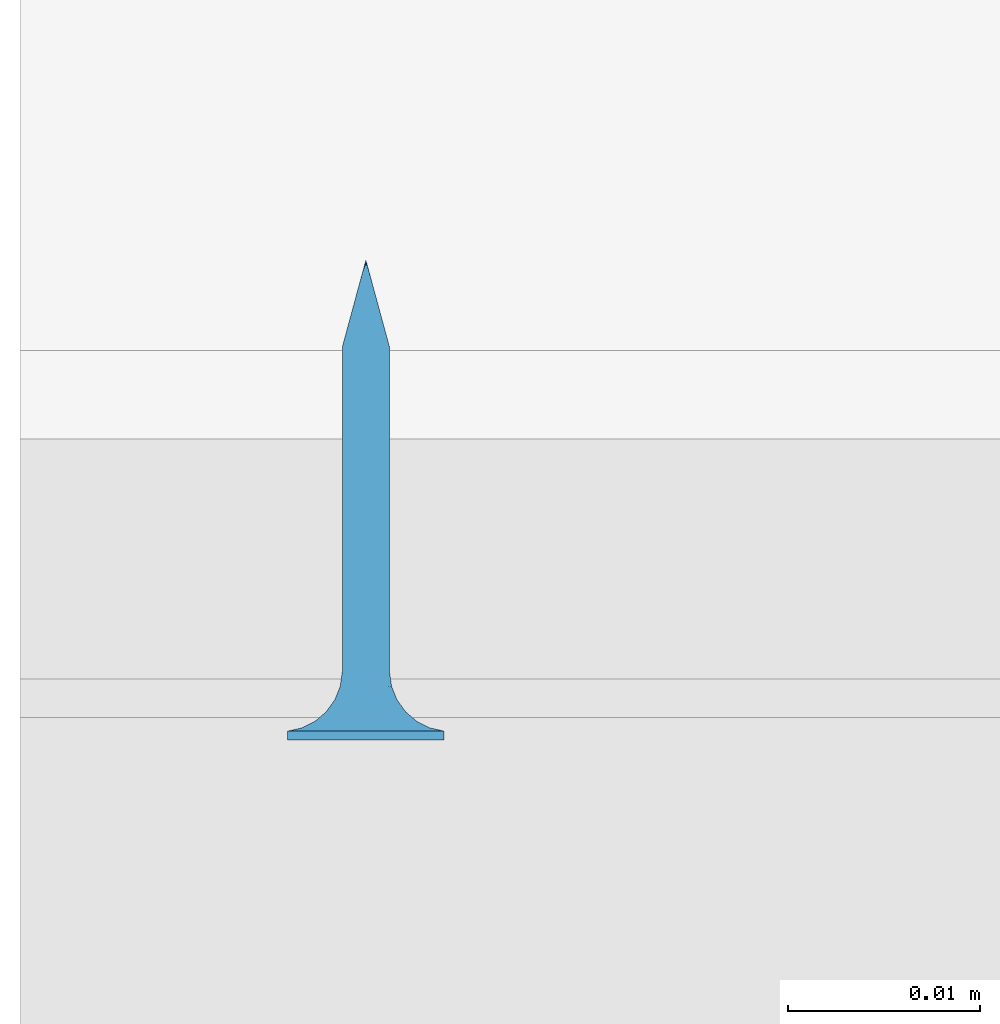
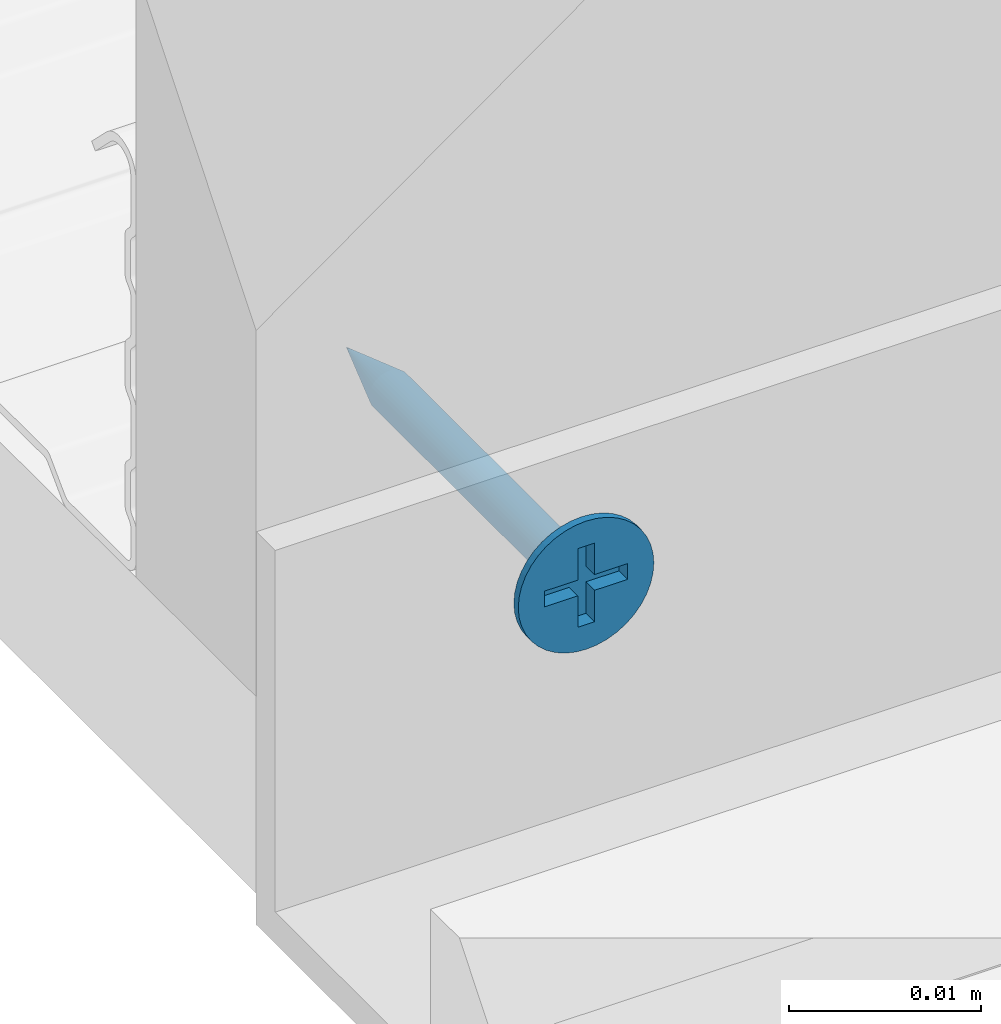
# One storey, part 23 of 79: 1 slab.
"""IFC2X3 building model written with IfcOpenShell, lengths in millimetres."""

from ifc_helpers import new_model, entity, si_unit, converted_unit, direction, frame, origin, origin_with_axes, place, context, project, spatial, faceted_brep, element, save


model = new_model("IFC2X3")

# Units and contexts
model_context = context("Model", 3, precision=1e-05, world=origin(), true_north=direction((0.0, 1.0, 0.0)))
ifc_project = project(units=[si_unit("LENGTHUNIT", "METRE", prefix="MILLI"), si_unit("AREAUNIT", "SQUARE_METRE"), si_unit("VOLUMEUNIT", "CUBIC_METRE"), converted_unit("PLANEANGLEUNIT", "DEGREE", entity("IfcPlaneAngleMeasure", 0.01745), si_unit("PLANEANGLEUNIT", "RADIAN"), dimensions=[0, 0, 0, 0, 0, 0, 0]), si_unit("SOLIDANGLEUNIT", "STERADIAN"), si_unit("MASSUNIT", "GRAM"), si_unit("TIMEUNIT", "SECOND"), si_unit("THERMODYNAMICTEMPERATUREUNIT", "DEGREE_CELSIUS"), si_unit("LUMINOUSINTENSITYUNIT", "LUMEN")], contexts=[model_context])

# Site, building, storey
site_placement = place(None, origin_with_axes())
site = spatial("IfcSite", under=ifc_project, at=site_placement, Name="Default Site", CompositionType="ELEMENT")
building_placement = place(site_placement, origin_with_axes())
building = spatial("IfcBuilding", under=site, at=building_placement, Name="Default Building", CompositionType="ELEMENT")
storey_placement = place(building_placement, origin_with_axes())
storey = spatial("IfcBuildingStorey", under=building, at=storey_placement, Name="Default Building Storey", CompositionType="ELEMENT", Elevation=0.0)

# Slab
slab_placement = place(storey_placement, frame((2280.499834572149, 5017.24186699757, 440.6779499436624), z_axis=(0.0, 0.0, 1.0), x_axis=(1.0, 0.0, 0.0)))
element("IfcSlab", 1, at=slab_placement, inside=storey, Name="Łącznik mechaniczny", context=model_context, shape_type="Brep", body=[
    faceted_brep([(-136.5890362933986, -3387.475459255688, 554.9298199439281), (-136.4636235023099, -3387.475459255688, 555.0766594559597), (-136.4636235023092, -3370.55807436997, 555.0766594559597), (-136.5890362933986, -3370.55807436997, 554.9298199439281), (-136.9005263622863, -3387.475459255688, 554.7035091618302), (-136.9005263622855, -3370.55807436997, 554.7035091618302), (-137.0789337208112, -3370.55807436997, 554.6296104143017), (-137.078933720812, -3387.475459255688, 554.6296104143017), (-137.2667048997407, -3387.475459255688, 554.5845305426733), (-137.2667048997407, -3370.55807436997, 554.5845305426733), (-137.4592163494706, -3370.55807436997, 554.5693795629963), (-137.4592163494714, -3387.475459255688, 554.5693795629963), (-136.4636235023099, -3387.475459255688, 556.5233405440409), (-136.5890362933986, -3387.475459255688, 556.6701800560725), (-136.5890362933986, -3370.55807436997, 556.6701800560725), (-136.4636235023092, -3370.55807436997, 556.5233405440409), (-138.4548091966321, -3370.55807436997, 556.5233405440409), (-138.3293964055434, -3370.55807436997, 556.6701800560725), (-138.3293964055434, -3387.475459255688, 556.6701800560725), (-138.4548091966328, -3387.475459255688, 556.5233405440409), (-136.7358758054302, -3370.55807436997, 554.8044071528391), (-136.7358758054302, -3387.475459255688, 554.8044071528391), (-138.1825568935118, -3387.475459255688, 556.7955928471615), (-138.1825568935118, -3370.55807436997, 556.7955928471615), (-138.0179063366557, -3370.55807436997, 556.8964908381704), (-138.0179063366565, -3387.475459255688, 556.8964908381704), (-136.3627255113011, -3387.475459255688, 556.3586899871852), (-136.3627255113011, -3370.55807436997, 556.3586899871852), (-136.7358758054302, -3387.475459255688, 556.7955928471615), (-136.7358758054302, -3370.55807436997, 556.7955928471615), (-137.6517277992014, -3387.475459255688, 554.5845305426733), (-137.6517277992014, -3370.55807436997, 554.5845305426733), (-137.83949897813, -3370.55807436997, 554.6296104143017), (-137.8394989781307, -3387.475459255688, 554.6296104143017), (-136.3627255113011, -3387.475459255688, 555.241310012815), (-136.3627255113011, -3370.55807436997, 555.241310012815), (-138.0179063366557, -3370.55807436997, 554.7035091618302), (-138.0179063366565, -3387.475459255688, 554.7035091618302), (-138.6746858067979, -3370.55807436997, 555.6074885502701), (-138.6898367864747, -3370.55807436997, 555.8000000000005), (-138.6898367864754, -3387.475459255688, 555.8000000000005), (-138.6746858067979, -3387.475459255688, 555.6074885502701), (-136.2285959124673, -3387.475459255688, 555.8000000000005), (-136.2437468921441, -3387.475459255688, 555.9925114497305), (-136.2437468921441, -3370.55807436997, 555.9925114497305), (-136.2285959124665, -3370.55807436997, 555.8000000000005), (-138.3293964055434, -3370.55807436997, 554.9298199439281), (-138.4548091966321, -3370.55807436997, 555.0766594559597), (-138.4548091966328, -3387.475459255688, 555.0766594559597), (-138.3293964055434, -3387.475459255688, 554.9298199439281), (-137.83949897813, -3370.55807436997, 556.9703895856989), (-137.8394989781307, -3387.475459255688, 556.9703895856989), (-138.1825568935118, -3370.55807436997, 554.8044071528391), (-138.1825568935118, -3387.475459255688, 554.8044071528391), (-138.5557071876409, -3370.55807436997, 555.241310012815), (-138.6296059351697, -3370.55807436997, 555.4197173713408), (-138.6296059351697, -3387.475459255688, 555.4197173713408), (-138.5557071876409, -3387.475459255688, 555.241310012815), (-136.2888267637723, -3387.475459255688, 555.4197173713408), (-136.2437468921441, -3387.475459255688, 555.6074885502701), (-136.2437468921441, -3370.55807436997, 555.6074885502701), (-136.2888267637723, -3370.55807436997, 555.4197173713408), (-136.2888267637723, -3387.475459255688, 556.1802826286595), (-136.2888267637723, -3370.55807436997, 556.1802826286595), (-137.4592163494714, -3387.475459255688, 557.0306204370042), (-137.4592163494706, -3370.55807436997, 557.0306204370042), (-137.2667048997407, -3370.55807436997, 557.0154694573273), (-137.2667048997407, -3387.475459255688, 557.0154694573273), (-137.0789337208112, -3370.55807436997, 556.9703895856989), (-137.078933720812, -3387.475459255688, 556.9703895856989), (-137.6517277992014, -3387.475459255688, 557.0154694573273), (-137.6517277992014, -3370.55807436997, 557.0154694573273), (-136.9005263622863, -3387.475459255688, 556.8964908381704), (-136.9005263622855, -3370.55807436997, 556.8964908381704), (-138.6296059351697, -3370.55807436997, 556.1802826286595), (-138.5557071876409, -3370.55807436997, 556.3586899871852), (-138.5557071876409, -3387.475459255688, 556.3586899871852), (-138.6296059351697, -3387.475459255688, 556.1802826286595), (-138.6746858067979, -3370.55807436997, 555.9925114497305), (-138.6746858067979, -3387.475459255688, 555.9925114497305), (-141.5377463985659, -3390.556721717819, 555.8000000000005), (-141.5377463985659, -3391.020944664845, 555.8000000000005), (-141.4875329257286, -3391.020944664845, 555.1619773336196), (-141.4875329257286, -3390.556721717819, 555.1619773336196), (-141.338128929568, -3391.020944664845, 554.539664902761), (-141.338128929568, -3390.556721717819, 554.539664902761), (-141.0932132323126, -3391.020944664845, 553.948386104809), (-141.0932132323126, -3390.556721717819, 553.948386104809), (-140.7588164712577, -3391.020944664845, 553.4027001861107), (-140.7588164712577, -3390.556721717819, 553.4027001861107), (-140.3431726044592, -3391.020944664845, 552.9160437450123), (-140.4541727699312, -3390.556721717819, 553.0314907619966), (-140.1080097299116, -3390.556721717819, 552.6986614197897), (-139.8565161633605, -3391.020944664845, 552.5003998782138), (-139.7251262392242, -3390.556721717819, 552.4088262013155), (-139.3108302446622, -3391.020944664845, 552.1660031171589), (-139.3108302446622, -3390.556721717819, 552.1660031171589), (-138.8708651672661, -3390.556721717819, 551.9735584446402), (-138.7195514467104, -3391.020944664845, 551.9210874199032), (-138.4113302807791, -3390.556721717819, 551.8341600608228), (-137.9385961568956, -3390.556721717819, 551.7497404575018), (-138.0972390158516, -3391.020944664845, 551.7716834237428), (-137.4592163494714, -3391.020944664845, 551.7214699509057), (-137.4592163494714, -3390.556721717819, 551.7214699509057), (-136.8211936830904, -3391.020944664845, 551.7716834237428), (-136.8211936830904, -3390.556721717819, 551.7716834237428), (-136.1988812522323, -3391.020944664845, 551.9210874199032), (-136.1988812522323, -3390.556721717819, 551.9210874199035), (-135.6076024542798, -3391.020944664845, 552.1660031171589), (-135.6076024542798, -3390.556721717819, 552.1660031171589), (-135.0619165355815, -3391.020944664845, 552.5003998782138), (-135.0619165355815, -3390.556721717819, 552.5003998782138), (-134.5752600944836, -3391.020944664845, 552.9160437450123), (-134.5752600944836, -3390.556721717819, 552.9160437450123), (-134.1596162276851, -3391.020944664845, 553.4027001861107), (-134.1596162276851, -3390.556721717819, 553.4027001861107), (-133.8252194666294, -3391.020944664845, 553.948386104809), (-133.8252194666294, -3390.556721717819, 553.948386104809), (-133.580303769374, -3391.020944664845, 554.539664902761), (-133.580303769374, -3390.556721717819, 554.539664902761), (-133.4308997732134, -3391.020944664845, 556.438022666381), (-133.4308997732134, -3390.556721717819, 556.438022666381), (-133.3806863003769, -3390.556721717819, 555.8000000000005), (-133.3806863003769, -3391.020944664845, 555.8000000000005), (-133.4308997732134, -3390.556721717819, 555.1619773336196), (-133.4308997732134, -3391.020944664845, 555.1619773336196), (-133.580303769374, -3391.020944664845, 557.0603350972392), (-133.580303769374, -3390.556721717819, 557.0603350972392), (-133.8252194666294, -3391.020944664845, 557.6516138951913), (-133.8252194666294, -3390.556721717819, 557.6516138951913), (-134.1596162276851, -3391.020944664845, 558.1972998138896), (-134.1596162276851, -3390.556721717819, 558.1972998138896), (-134.5752600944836, -3391.020944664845, 558.683956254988), (-134.5752600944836, -3390.556721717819, 558.683956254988), (-135.0619165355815, -3391.020944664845, 559.0996001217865), (-135.0619165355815, -3390.556721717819, 559.0996001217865), (-135.6076024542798, -3391.020944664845, 559.4339968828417), (-135.6076024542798, -3390.556721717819, 559.4339968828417), (-136.1988812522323, -3391.020944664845, 559.6789125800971), (-136.1988812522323, -3390.556721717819, 559.6789125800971), (-136.8211936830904, -3391.020944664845, 559.8283165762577), (-136.8211936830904, -3390.556721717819, 559.8283165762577), (-137.4592163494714, -3391.020944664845, 559.8785300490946), (-137.4592163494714, -3390.556721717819, 559.8785300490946), (-138.0972390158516, -3391.020944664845, 559.8283165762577), (-138.0972390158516, -3390.556721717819, 559.8283165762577), (-138.7195514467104, -3391.020944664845, 559.6789125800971), (-138.7195514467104, -3390.556721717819, 559.6789125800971), (-139.3108302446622, -3391.020944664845, 559.4339968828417), (-139.3108302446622, -3390.556721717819, 559.4339968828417), (-139.8565161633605, -3391.020944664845, 559.0996001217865), (-139.8565161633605, -3390.556721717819, 559.0996001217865), (-140.3431726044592, -3391.020944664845, 558.683956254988), (-140.3431726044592, -3390.556721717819, 558.683956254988), (-140.7588164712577, -3391.020944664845, 558.1972998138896), (-140.7588164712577, -3390.556721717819, 558.1972998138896), (-141.0932132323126, -3391.020944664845, 557.6516138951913), (-141.0932132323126, -3390.556721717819, 557.6516138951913), (-141.338128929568, -3391.020944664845, 557.0603350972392), (-141.338128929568, -3390.556721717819, 557.0603350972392), (-141.4875329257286, -3391.020944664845, 556.438022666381), (-141.4875329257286, -3390.556721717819, 556.438022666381), (-137.8060615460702, -3388.229732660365, 554.5055560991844), (-137.4592163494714, -3388.229732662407, 554.4598930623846), (-138.1292698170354, -3388.229732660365, 554.6394333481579), (-138.4068150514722, -3388.229732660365, 554.8524012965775), (-138.6197830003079, -3388.229732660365, 555.1299465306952), (-138.7536602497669, -3388.229732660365, 555.4531548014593), (-138.7993232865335, -3388.229732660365, 555.7999999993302), (-138.7536602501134, -3388.229732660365, 556.1468451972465), (-138.6197830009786, -3388.229732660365, 556.4700534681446), (-138.4068150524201, -3388.229732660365, 556.7475987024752), (-138.1292698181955, -3388.229732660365, 556.9605666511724), (-137.8060615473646, -3388.229732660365, 557.0944439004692), (-137.4592163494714, -3388.229732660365, 557.1401069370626), (-137.1123711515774, -3388.229732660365, 557.0944439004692), (-136.7891628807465, -3388.229732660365, 556.9605666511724), (-136.5116176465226, -3388.229732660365, 556.7475987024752), (-136.2986496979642, -3388.229732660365, 556.4700534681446), (-136.1647724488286, -3388.229732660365, 556.1468451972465), (-136.1191094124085, -3388.229732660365, 555.7999999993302), (-136.1647724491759, -3388.229732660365, 555.4531548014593), (-136.2986496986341, -3388.229732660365, 555.1299465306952), (-136.5116176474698, -3388.229732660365, 554.8524012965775), (-136.7891628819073, -3388.229732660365, 554.6394333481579), (-137.1123711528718, -3388.229732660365, 554.5055560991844), (-137.4592163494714, -3388.936142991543, 554.1737111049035), (-137.8801308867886, -3388.936142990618, 554.2291255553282), (-138.2723607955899, -3388.936142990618, 554.39159250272), (-138.6091762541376, -3388.936142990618, 554.6500400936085), (-138.8676238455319, -3388.936142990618, 554.9868555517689), (-139.0300907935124, -3388.936142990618, 555.3790854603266), (-139.0855052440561, -3388.936142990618, 555.7999999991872), (-139.0300907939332, -3388.936142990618, 556.2209145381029), (-138.8676238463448, -3388.936142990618, 556.6131444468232), (-138.6091762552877, -3388.936142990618, 556.949959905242), (-138.2723607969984, -3388.936142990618, 557.2084074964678), (-137.8801308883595, -3388.936142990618, 557.3708744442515), (-137.4592163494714, -3388.936142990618, 557.4262888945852), (-137.0383018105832, -3388.936142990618, 557.3708744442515), (-136.6460719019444, -3388.936142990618, 557.2084074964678), (-136.3092564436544, -3388.936142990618, 556.949959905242), (-136.0508088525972, -3388.936142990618, 556.6131444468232), (-135.8883419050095, -3388.936142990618, 556.2209145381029), (-135.8329274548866, -3388.936142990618, 555.7999999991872), (-135.8883419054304, -3388.936142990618, 555.3790854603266), (-136.0508088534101, -3388.936142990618, 554.9868555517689), (-136.3092564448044, -3388.936142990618, 554.6500400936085), (-136.6460719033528, -3388.936142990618, 554.39159250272), (-137.0383018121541, -3388.936142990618, 554.2291255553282), (-137.4592163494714, -3389.553938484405, 553.727343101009), (-137.9956594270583, -3389.553938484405, 553.7979671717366), (-138.4955447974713, -3389.553938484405, 554.0050264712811), (-138.9248060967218, -3389.553938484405, 554.3344102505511), (-139.2541898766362, -3389.553938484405, 554.7636715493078), (-139.46124917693, -3389.553938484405, 555.2635569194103), (-139.5318732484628, -3389.553938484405, 555.7999999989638), (-139.4612491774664, -3389.553938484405, 556.3364430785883), (-139.2541898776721, -3389.553938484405, 556.8363284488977), (-138.9248060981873, -3389.553938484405, 557.2655897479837), (-138.495544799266, -3389.553938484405, 557.5949735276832), (-137.9956594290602, -3389.553938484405, 557.8020328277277), (-137.4592163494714, -3389.553938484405, 557.8726568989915), (-136.9227732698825, -3389.553938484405, 557.8020328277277), (-136.422887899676, -3389.553938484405, 557.5949735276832), (-135.9936266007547, -3389.553938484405, 557.2655897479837), (-135.6642428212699, -3389.553938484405, 556.8363284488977), (-135.4571835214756, -3389.553938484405, 556.3364430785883), (-135.3865594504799, -3389.553938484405, 555.7999999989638), (-135.457183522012, -3389.553938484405, 555.2635569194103), (-135.6642428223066, -3389.553938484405, 554.7636715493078), (-135.9936266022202, -3389.553938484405, 554.3344102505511), (-136.4228879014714, -3389.553938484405, 554.0050264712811), (-136.9227732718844, -3389.553938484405, 553.7979671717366), (-137.4592163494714, -3390.04747944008, 553.1465393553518), (-138.1459824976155, -3390.047479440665, 553.2369538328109), (-138.7859466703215, -3390.047479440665, 553.5020356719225), (-139.3354963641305, -3390.047479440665, 553.9237199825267), (-139.757180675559, -3390.047479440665, 554.4732696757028), (-140.0222625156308, -3390.047479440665, 555.1132338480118), (-140.1126769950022, -3390.047479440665, 555.7999999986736), (-140.0222625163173, -3390.047479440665, 556.4867661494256), (-139.7571806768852, -3390.047479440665, 557.1267303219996), (-139.3354963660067, -3390.047479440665, 557.6762800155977), (-138.7859466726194, -3390.047479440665, 558.0979643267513), (-138.1459825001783, -3390.047479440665, 558.3630461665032), (-137.4592163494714, -3390.047479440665, 558.4534606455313), (-136.7724501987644, -3390.047479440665, 558.3630461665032), (-136.1324860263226, -3390.047479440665, 558.0979643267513), (-135.5829363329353, -3390.047479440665, 557.6762800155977), (-135.1612520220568, -3390.047479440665, 557.1267303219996), (-134.8961701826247, -3390.047479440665, 556.4867661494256), (-134.8057557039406, -3390.047479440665, 555.7999999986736), (-134.8961701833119, -3390.047479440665, 555.1132338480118), (-135.1612520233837, -3390.047479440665, 554.4732696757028), (-135.5829363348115, -3390.047479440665, 553.9237199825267), (-136.1324860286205, -3390.047479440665, 553.5020356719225), (-136.7724502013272, -3390.047479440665, 553.2369538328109), (-137.4592163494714, -3390.388294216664, 552.4648055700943), (-138.3224281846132, -3390.388294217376, 552.5784495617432), (-139.1268135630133, -3390.388294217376, 552.9116368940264), (-139.8175549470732, -3390.388294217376, 553.4416613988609), (-140.3475794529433, -3390.388294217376, 554.1324027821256), (-140.6807667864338, -3390.388294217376, 554.9367881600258), (-140.7944107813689, -3390.388294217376, 555.7999999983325), (-140.6807667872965, -3390.388294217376, 556.6632118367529), (-140.3475794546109, -3390.388294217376, 557.4675972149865), (-139.8175549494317, -3390.388294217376, 558.1583385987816), (-139.1268135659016, -3390.388294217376, 558.6883631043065), (-138.3224281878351, -3390.388294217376, 559.0215504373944), (-137.4592163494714, -3390.388294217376, 559.1351944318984), (-136.5960045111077, -3390.388294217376, 559.0215504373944), (-135.7916191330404, -3390.388294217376, 558.6883631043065), (-135.1008777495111, -3390.388294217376, 558.1583385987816), (-134.5708532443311, -3390.388294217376, 557.4675972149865), (-134.2376659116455, -3390.388294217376, 556.6632118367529), (-134.1240219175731, -3390.388294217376, 555.7999999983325), (-134.2376659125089, -3390.388294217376, 554.9367881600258), (-134.5708532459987, -3390.388294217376, 554.1324027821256), (-135.1008777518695, -3390.388294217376, 553.4416613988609), (-135.7916191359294, -3390.388294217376, 552.9116368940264), (-136.5960045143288, -3390.388294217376, 552.5784495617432), (-137.4592163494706, -3366.021033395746, 555.8000000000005), (-139.9592163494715, -3391.020944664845, 556.3000000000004), (-137.9592163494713, -3391.020944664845, 556.3000000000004), (-139.9592163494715, -3391.020944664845, 555.3000000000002), (-137.9592163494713, -3391.020944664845, 555.3000000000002), (-137.9592163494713, -3391.020944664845, 553.3000000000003), (-136.9592163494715, -3391.020944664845, 553.3000000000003), (-136.9592163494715, -3391.020944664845, 555.3000000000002), (-134.9592163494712, -3391.020944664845, 555.3000000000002), (-134.9592163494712, -3391.020944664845, 556.3000000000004), (-136.9592163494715, -3391.020944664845, 556.3000000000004), (-136.9592163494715, -3391.020944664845, 558.3000000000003), (-137.9592163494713, -3391.020944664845, 558.3000000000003), (-136.9592163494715, -3390.128974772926, 556.3000000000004), (-134.9592163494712, -3390.128974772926, 556.3000000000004), (-134.9592163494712, -3390.128974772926, 555.3000000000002), (-136.9592163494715, -3390.128974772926, 555.3000000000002), (-136.9592163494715, -3390.128974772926, 553.3000000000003), (-137.9592163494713, -3390.128974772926, 553.3000000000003), (-137.9592163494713, -3390.128974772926, 555.3000000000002), (-139.9592163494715, -3390.128974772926, 555.3000000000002), (-139.9592163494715, -3390.128974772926, 556.3000000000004), (-137.9592163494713, -3390.128974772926, 556.3000000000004), (-137.9592163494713, -3390.128974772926, 558.3000000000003), (-136.9592163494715, -3390.128974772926, 558.3000000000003)], [[[0, 1, 2, 3]], [[4, 5, 6, 7]], [[8, 9, 10, 11]], [[12, 13, 14, 15]], [[16, 17, 18, 19]], [[0, 3, 20, 21]], [[22, 23, 24, 25]], [[26, 12, 15, 27]], [[28, 29, 14, 13]], [[30, 31, 32, 33]], [[1, 34, 35, 2]], [[18, 17, 23, 22]], [[7, 6, 9, 8]], [[33, 32, 36, 37]], [[38, 39, 40, 41]], [[42, 43, 44, 45]], [[46, 47, 48, 49]], [[25, 24, 50, 51]], [[37, 36, 52, 53]], [[54, 55, 56, 57]], [[53, 52, 46, 49]], [[47, 54, 57, 48]], [[58, 59, 60, 61]], [[59, 42, 45, 60]], [[43, 62, 63, 44]], [[64, 65, 66, 67]], [[67, 66, 68, 69]], [[55, 38, 41, 56]], [[70, 71, 65, 64]], [[72, 73, 29, 28]], [[74, 75, 76, 77]], [[69, 68, 73, 72]], [[39, 78, 79, 40]], [[75, 16, 19, 76]], [[62, 26, 27, 63]], [[11, 10, 31, 30]], [[21, 20, 5, 4]], [[34, 58, 61, 35]], [[51, 50, 71, 70]], [[78, 74, 77, 79]], [[80, 81, 82, 83]], [[84, 85, 83, 82]], [[86, 87, 85, 84]], [[87, 86, 88, 89]], [[88, 90, 89]], [[90, 91, 89]], [[92, 91, 93]], [[91, 90, 93]], [[93, 94, 92]], [[93, 95, 94]], [[95, 96, 94]], [[97, 96, 98]], [[96, 95, 98]], [[98, 99, 97]], [[100, 99, 101]], [[99, 98, 101]], [[101, 102, 100]], [[102, 103, 100]], [[103, 102, 104, 105]], [[106, 107, 105, 104]], [[108, 109, 107, 106]], [[109, 108, 110, 111]], [[112, 113, 111, 110]], [[113, 112, 114, 115]], [[116, 117, 115, 114]], [[118, 119, 117, 116]], [[120, 121, 122, 123]], [[123, 122, 124, 125]], [[119, 118, 125, 124]], [[126, 127, 121, 120]], [[128, 129, 127, 126]], [[129, 128, 130, 131]], [[132, 133, 131, 130]], [[133, 132, 134, 135]], [[136, 137, 135, 134]], [[138, 139, 137, 136]], [[139, 138, 140, 141]], [[142, 143, 141, 140]], [[143, 142, 144, 145]], [[146, 147, 145, 144]], [[148, 149, 147, 146]], [[149, 148, 150, 151]], [[152, 153, 151, 150]], [[153, 152, 154, 155]], [[156, 157, 155, 154]], [[158, 159, 157, 156]], [[159, 158, 160, 161]], [[81, 80, 161, 160]], [[162, 11, 30]], [[162, 163, 11]], [[30, 33, 162]], [[162, 33, 164]], [[37, 164, 33]], [[164, 37, 53]], [[53, 165, 164]], [[53, 49, 165]], [[166, 49, 48]], [[166, 165, 49]], [[48, 57, 166]], [[166, 57, 167]], [[56, 167, 57]], [[167, 56, 41]], [[41, 168, 167]], [[41, 40, 168]], [[169, 40, 79]], [[169, 168, 40]], [[79, 77, 169]], [[169, 77, 170]], [[76, 170, 77]], [[170, 76, 19]], [[19, 171, 170]], [[19, 18, 171]], [[172, 18, 22]], [[172, 171, 18]], [[22, 25, 172]], [[172, 25, 173]], [[51, 173, 25]], [[173, 51, 70]], [[70, 174, 173]], [[70, 64, 174]], [[175, 64, 67]], [[175, 174, 64]], [[67, 69, 175]], [[175, 69, 176]], [[72, 176, 69]], [[176, 72, 28]], [[28, 177, 176]], [[28, 13, 177]], [[178, 13, 12]], [[178, 177, 13]], [[12, 26, 178]], [[178, 26, 179]], [[62, 179, 26]], [[179, 62, 43]], [[43, 180, 179]], [[43, 42, 180]], [[181, 42, 59]], [[181, 180, 42]], [[59, 58, 181]], [[181, 58, 182]], [[34, 182, 58]], [[182, 34, 1]], [[1, 183, 182]], [[1, 0, 183]], [[184, 0, 21]], [[184, 183, 0]], [[21, 4, 184]], [[184, 4, 185]], [[7, 185, 4]], [[185, 7, 8]], [[8, 163, 185]], [[8, 11, 163]], [[186, 163, 187]], [[162, 187, 163]], [[164, 188, 187, 162]], [[165, 189, 188, 164]], [[166, 190, 189, 165]], [[167, 191, 190, 166]], [[168, 192, 191, 167]], [[169, 193, 192, 168]], [[170, 194, 193, 169]], [[171, 195, 194, 170]], [[172, 196, 195, 171]], [[173, 197, 196, 172]], [[174, 198, 197, 173]], [[175, 199, 198, 174]], [[176, 200, 199, 175]], [[177, 201, 200, 176]], [[178, 202, 201, 177]], [[179, 203, 202, 178]], [[180, 204, 203, 179]], [[181, 205, 204, 180]], [[182, 206, 205, 181]], [[183, 207, 206, 182]], [[184, 208, 207, 183]], [[185, 209, 208, 184]], [[185, 163, 209]], [[186, 209, 163]], [[210, 186, 211]], [[187, 211, 186]], [[188, 212, 211, 187]], [[189, 213, 212, 188]], [[190, 214, 213, 189]], [[191, 215, 214, 190]], [[192, 216, 215, 191]], [[193, 217, 216, 192]], [[194, 218, 217, 193]], [[195, 219, 218, 194]], [[196, 220, 219, 195]], [[197, 221, 220, 196]], [[198, 222, 221, 197]], [[199, 223, 222, 198]], [[200, 224, 223, 199]], [[201, 225, 224, 200]], [[202, 226, 225, 201]], [[203, 227, 226, 202]], [[204, 228, 227, 203]], [[205, 229, 228, 204]], [[206, 230, 229, 205]], [[207, 231, 230, 206]], [[208, 232, 231, 207]], [[209, 233, 232, 208]], [[209, 186, 233]], [[210, 233, 186]], [[234, 210, 235]], [[211, 235, 210]], [[212, 236, 235, 211]], [[213, 237, 236, 212]], [[214, 238, 237, 213]], [[215, 239, 238, 214]], [[216, 240, 239, 215]], [[217, 241, 240, 216]], [[218, 242, 241, 217]], [[219, 243, 242, 218]], [[220, 244, 243, 219]], [[221, 245, 244, 220]], [[222, 246, 245, 221]], [[223, 247, 246, 222]], [[224, 248, 247, 223]], [[225, 249, 248, 224]], [[226, 250, 249, 225]], [[227, 251, 250, 226]], [[228, 252, 251, 227]], [[229, 253, 252, 228]], [[230, 254, 253, 229]], [[231, 255, 254, 230]], [[232, 256, 255, 231]], [[233, 257, 256, 232]], [[233, 210, 257]], [[234, 257, 210]], [[258, 99, 100]], [[258, 259, 99]], [[100, 103, 258]], [[258, 234, 259]], [[235, 259, 234]], [[259, 96, 97]], [[259, 260, 96]], [[97, 99, 259]], [[236, 260, 259, 235]], [[261, 91, 92]], [[260, 92, 94]], [[260, 261, 92]], [[94, 96, 260]], [[237, 261, 260, 236]], [[262, 87, 89]], [[89, 261, 262]], [[89, 91, 261]], [[238, 262, 261, 237]], [[85, 87, 263]], [[262, 263, 87]], [[239, 263, 262, 238]], [[263, 80, 83]], [[263, 264, 80]], [[83, 85, 263]], [[240, 264, 263, 239]], [[265, 159, 161]], [[161, 264, 265]], [[161, 80, 264]], [[241, 265, 264, 240]], [[265, 266, 157, 159]], [[242, 266, 265, 241]], [[266, 153, 155]], [[266, 267, 153]], [[155, 157, 266]], [[243, 267, 266, 242]], [[268, 149, 151]], [[151, 267, 268]], [[151, 153, 267]], [[244, 268, 267, 243]], [[268, 269, 147, 149]], [[245, 269, 268, 244]], [[269, 143, 145]], [[269, 270, 143]], [[145, 147, 269]], [[246, 270, 269, 245]], [[271, 139, 141]], [[141, 270, 271]], [[141, 143, 270]], [[247, 271, 270, 246]], [[271, 272, 137, 139]], [[248, 272, 271, 247]], [[272, 133, 135]], [[272, 273, 133]], [[135, 137, 272]], [[249, 273, 272, 248]], [[274, 129, 131]], [[131, 273, 274]], [[131, 133, 273]], [[250, 274, 273, 249]], [[274, 275, 127, 129]], [[251, 275, 274, 250]], [[275, 122, 121]], [[275, 276, 122]], [[121, 127, 275]], [[252, 276, 275, 251]], [[277, 119, 124]], [[124, 276, 277]], [[124, 122, 276]], [[253, 277, 276, 252]], [[117, 119, 278]], [[277, 278, 119]], [[254, 278, 277, 253]], [[278, 113, 115]], [[278, 279, 113]], [[115, 117, 278]], [[255, 279, 278, 254]], [[280, 109, 111]], [[111, 279, 280]], [[111, 113, 279]], [[256, 280, 279, 255]], [[107, 109, 281]], [[280, 281, 109]], [[257, 281, 280, 256]], [[257, 234, 281]], [[258, 281, 234]], [[281, 103, 105]], [[281, 258, 103]], [[105, 107, 281]], [[38, 55, 282]], [[282, 39, 38]], [[55, 54, 282]], [[47, 46, 282]], [[282, 54, 47]], [[52, 36, 282]], [[282, 46, 52]], [[36, 32, 282]], [[31, 10, 282]], [[282, 32, 31]], [[9, 6, 282]], [[282, 10, 9]], [[6, 5, 282]], [[20, 3, 282]], [[282, 5, 20]], [[2, 35, 282]], [[282, 3, 2]], [[35, 61, 282]], [[60, 45, 282]], [[282, 61, 60]], [[44, 63, 282]], [[282, 45, 44]], [[63, 27, 282]], [[15, 14, 282]], [[282, 27, 15]], [[29, 73, 282]], [[282, 14, 29]], [[73, 68, 282]], [[66, 65, 282]], [[282, 68, 66]], [[71, 50, 282]], [[282, 65, 71]], [[50, 24, 282]], [[23, 17, 282]], [[282, 24, 23]], [[16, 75, 282]], [[282, 17, 16]], [[75, 74, 282]], [[78, 39, 282]], [[282, 74, 78]], [[283, 156, 154, 284]], [[283, 285, 286, 287, 288, 289, 290, 291, 292, 293, 294, 284, 154, 152, 150, 148, 146, 144, 142, 140, 138, 136, 134, 132, 130, 128, 126, 120, 123, 125, 118, 116, 114, 112, 110, 108, 106, 104, 102, 101, 98, 95, 93, 90, 88, 86, 84, 82, 81, 160, 158, 156]], [[295, 296, 297, 298, 299, 300, 301, 302, 303, 304, 305, 306]], [[297, 290, 289, 298]], [[296, 291, 290, 297]], [[295, 292, 291, 296]], [[306, 293, 292, 295]], [[305, 294, 293, 306]], [[304, 284, 294, 305]], [[303, 283, 284, 304]], [[302, 285, 283, 303]], [[301, 286, 285, 302]], [[300, 287, 286, 301]], [[299, 288, 287, 300]], [[298, 289, 288, 299]]]),
])

save(model, "model.ifc")
